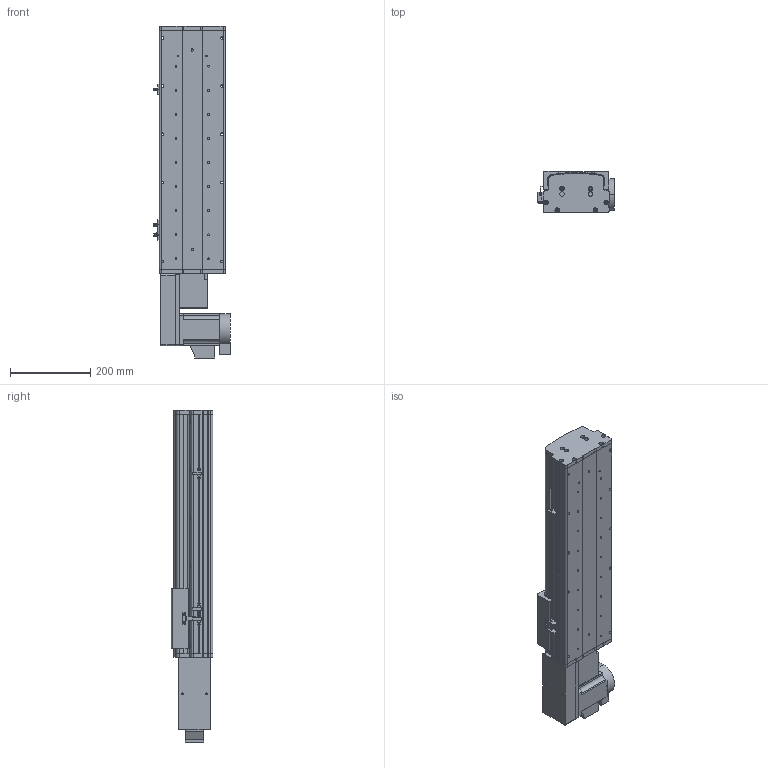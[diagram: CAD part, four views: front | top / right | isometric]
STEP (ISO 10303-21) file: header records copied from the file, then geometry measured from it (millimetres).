
FILE_DESCRIPTION (( 'STEP AP214' ), '1' );
FILE_NAME ('KSD165B-S350-MLB-CM .STEP', '2017-10-16T05:49:23', ( '微软用户' ), ( '微软中国' ), 'SwSTEP 2.0', 'SolidWorks 2014', '' );
FILE_SCHEMA (( 'AUTOMOTIVE_DESIGN' ));
Length unit declared in the file: millimetre
Products named in the file (17): 覜茼え68遵圉猾敕; KSD165模组-同步带-防撞垫2; KSD165模组同步带-防撞垫1; KSD165耀郪-ヶ傷啣1-肮祭湍; KSD165模组-后端板1-同步带; KSD165模组-同步带滑动座-最新版; KSD165B-S350-MLB-CM ; HTPA26S5M250-A-H8 750W萇儂蚚; HTPA26S5M250-A-H8 400W萇儂蚚 ; 130宽模组马达安装板连板左右折同步带; 130宽模组保护罩上下左右折-同步带; 165宽马达安装板同步带左-改; KSD165模组-同步带防尘盖1-350行程-最新版; KSD165模组同步带底板-350行程-最新; 拸秶雄ん750W侜督萇儂; U倰嫖萇假蚾璃; U倰嫖萇EEㄜSX672
Assembly tree (20 placements, depth 2):
  KSD165B-S350-MLB-CM 
    KSD165模组-同步带滑动座-最新版
    KSD165模组-后端板1-同步带
    KSD165耀郪-ヶ傷啣1-肮祭湍
    KSD165模组同步带-防撞垫1
    KSD165模组-同步带-防撞垫2
    覜茼え68遵圉猾敕
    U倰嫖萇EEㄜSX672  x3
    U倰嫖萇假蚾璃  x3
    拸秶雄ん750W侜督萇儂
    KSD165模组同步带底板-350行程-最新
    KSD165模组-同步带防尘盖1-350行程-最新版
    165宽马达安装板同步带左-改
    130宽模组保护罩上下左右折-同步带
    130宽模组马达安装板连板左右折同步带
    HTPA26S5M250-A-H8 400W萇儂蚚 
    HTPA26S5M250-A-H8 750W萇儂蚚
Bounding box: 191.2 x 104 x 828 mm (x, y, z)
Volume: 4986180.3 mm3; surface area: 1149715.3 mm2
Topology: 21 solids, 22 shells, 1875 faces, 5274 edges, 3440 vertices
Faces by surface type: cylinder 1185, plane 578, cone 112
Entity records: 60016 total; most frequent: CARTESIAN_POINT 12282, DIRECTION 9938, ORIENTED_EDGE 9208, EDGE_CURVE 4604, AXIS2_PLACEMENT_3D 3886, VERTEX_POINT 3032, CIRCLE 2208, LINE 2166
